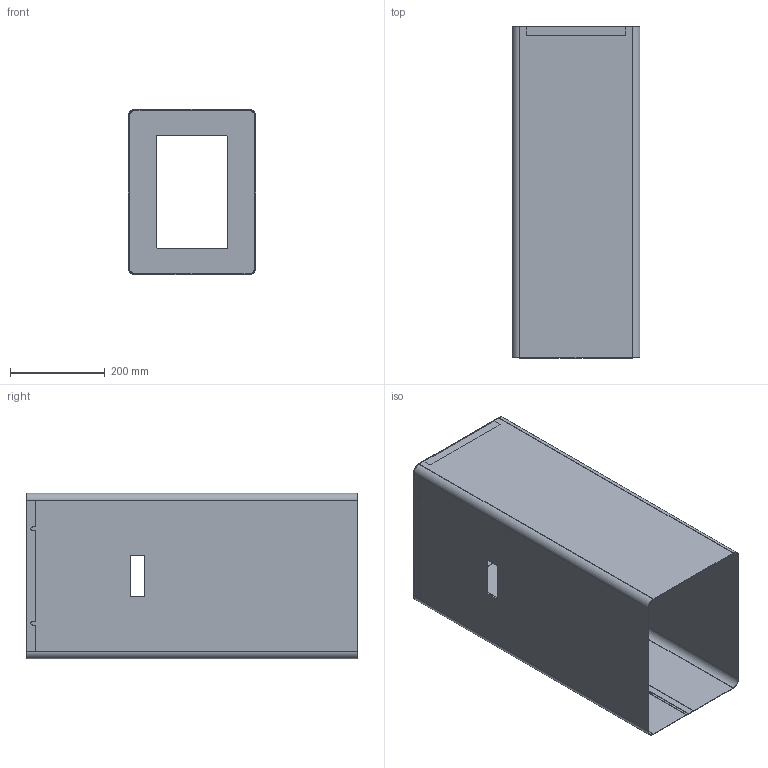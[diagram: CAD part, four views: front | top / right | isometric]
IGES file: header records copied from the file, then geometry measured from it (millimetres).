
Start section: SolidWorks IGES file using analytic representation for surfaces
Global section: file name: C:\Users\Pol\Desktop\IGS\BAS_01.IGS; native system: SolidWorks 2015; preprocessor: SolidWorks 2015; author: Pol; date: 160321.125019; units: millimetre
Bounding box: 270 x 700 x 350 mm (x, y, z)
Surface area: 1841199.7 mm2 (no closed solid volume)
Topology: 0 solids, 0 shells, 102 faces, 1260 edges, 1258 vertices
Faces by surface type: bspline 74, revolution 28
